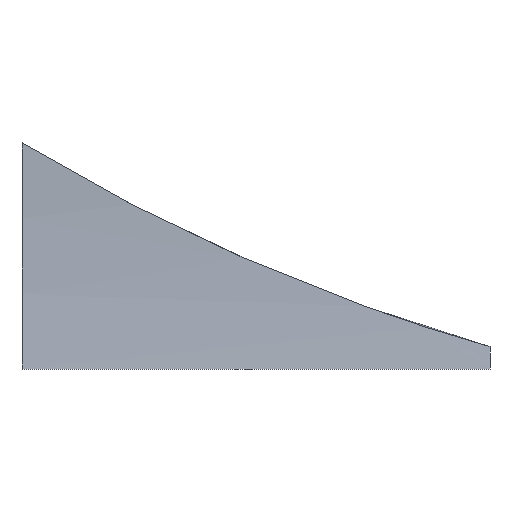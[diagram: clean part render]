
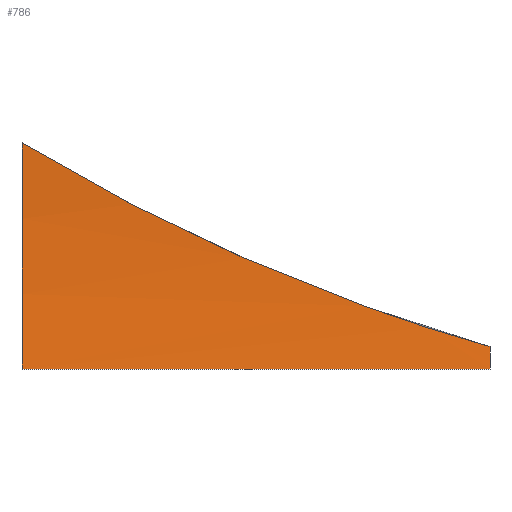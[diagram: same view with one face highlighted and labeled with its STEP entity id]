
A CAD part, left-side view. The second image highlights one B-rep face of the part: STEP entity #786.
In plain terms, the highlighted cylindrical face has radius 288.639 mm (diameter 577.278 mm), a partial arc.
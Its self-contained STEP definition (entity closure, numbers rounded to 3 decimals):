
#25 = CARTESIAN_POINT ( 'NONE',  ( -19.21, -86.456, 7.562 ) ) ;
#28 = DIRECTION ( 'NONE',  ( 0., 0., 1. ) ) ;
#36 = FACE_OUTER_BOUND ( 'NONE', #1327, .T. ) ;
#47 = LINE ( 'NONE', #1311, #1689 ) ;
#176 = CARTESIAN_POINT ( 'NONE',  ( -15.651, 7.914, 50. ) ) ;
#182 = ORIENTED_EDGE ( 'NONE', *, *, #539, .F. ) ;
#333 = CARTESIAN_POINT ( 'NONE',  ( -15.651, 7.914, 50. ) ) ;
#356 = CARTESIAN_POINT ( 'NONE',  ( -20.528, -95.58, 0. ) ) ;
#371 = CIRCLE ( 'NONE', #480, 288.639 ) ;
#408 = CARTESIAN_POINT ( 'NONE',  ( -304.276, 7.914, 52.914 ) ) ;
#480 = AXIS2_PLACEMENT_3D ( 'NONE', #408, #1217, #1454 ) ;
#539 = EDGE_CURVE ( 'NONE', #1112, #1550, #782, .T. ) ;
#573 = ORIENTED_EDGE ( 'NONE', *, *, #1256, .T. ) ;
#627 = ORIENTED_EDGE ( 'NONE', *, *, #1024, .F. ) ;
#668 = CARTESIAN_POINT ( 'NONE',  ( -304.276, -101.086, 52.914 ) ) ;
#679 = VERTEX_POINT ( 'NONE', #1356 ) ;
#688 = CARTESIAN_POINT ( 'NONE',  ( -15.701, -0.217, 45.087 ) ) ;
#703 = B_SPLINE_CURVE_WITH_KNOTS ( 'NONE', 3,
 ( #176, #688, #804, #1089, #964, #1205, #949, #1459, #25, #795 ),
 .UNSPECIFIED., .F., .F.,
 ( 4, 2, 2, 2, 4 ),
 ( 0., 0.028, 0.056, 0.085, 0.113 ),
 .UNSPECIFIED. ) ;
#782 = CIRCLE ( 'NONE', #1167, 288.639 ) ;
#783 = DIRECTION ( 'NONE',  ( 0., 0., 1. ) ) ;
#786 = ADVANCED_FACE ( 'NONE', ( #36 ), #1082, .F. ) ;
#795 = CARTESIAN_POINT ( 'NONE',  ( -19.647, -95.58, 4.965 ) ) ;
#804 = CARTESIAN_POINT ( 'NONE',  ( -15.872, -8.472, 40.47 ) ) ;
#846 = CARTESIAN_POINT ( 'NONE',  ( -19.647, -95.58, 4.965 ) ) ;
#944 = CARTESIAN_POINT ( 'NONE',  ( -304.276, -95.58, 52.914 ) ) ;
#949 = CARTESIAN_POINT ( 'NONE',  ( -17.886, -59.719, 16.807 ) ) ;
#964 = CARTESIAN_POINT ( 'NONE',  ( -16.709, -33.727, 27.777 ) ) ;
#1024 = EDGE_CURVE ( 'NONE', #1645, #1112, #703, .T. ) ;
#1082 = CYLINDRICAL_SURFACE ( 'NONE', #1656, 288.639 ) ;
#1089 = CARTESIAN_POINT ( 'NONE',  ( -16.376, -25.227, 31.815 ) ) ;
#1112 = VERTEX_POINT ( 'NONE', #846 ) ;
#1146 = ORIENTED_EDGE ( 'NONE', *, *, #1338, .T. ) ;
#1167 = AXIS2_PLACEMENT_3D ( 'NONE', #944, #1303, #28 ) ;
#1205 = CARTESIAN_POINT ( 'NONE',  ( -17.463, -50.973, 20.273 ) ) ;
#1217 = DIRECTION ( 'NONE',  ( 0., 1., 0. ) ) ;
#1256 = EDGE_CURVE ( 'NONE', #1645, #679, #371, .T. ) ;
#1303 = DIRECTION ( 'NONE',  ( 0., 1., 0. ) ) ;
#1311 = CARTESIAN_POINT ( 'NONE',  ( -20.528, 7.914, 0. ) ) ;
#1327 = EDGE_LOOP ( 'NONE', ( #627, #573, #1146, #182 ) ) ;
#1338 = EDGE_CURVE ( 'NONE', #679, #1550, #47, .T. ) ;
#1356 = CARTESIAN_POINT ( 'NONE',  ( -20.528, 7.914, 0. ) ) ;
#1443 = DIRECTION ( 'NONE',  ( 0., -1., 0. ) ) ;
#1448 = DIRECTION ( 'NONE',  ( 0., 1., 0. ) ) ;
#1454 = DIRECTION ( 'NONE',  ( 0., 0., 1. ) ) ;
#1459 = CARTESIAN_POINT ( 'NONE',  ( -18.759, -77.461, 10.452 ) ) ;
#1550 = VERTEX_POINT ( 'NONE', #356 ) ;
#1645 = VERTEX_POINT ( 'NONE', #333 ) ;
#1656 = AXIS2_PLACEMENT_3D ( 'NONE', #668, #1448, #783 ) ;
#1689 = VECTOR ( 'NONE', #1443, 1000. ) ;
